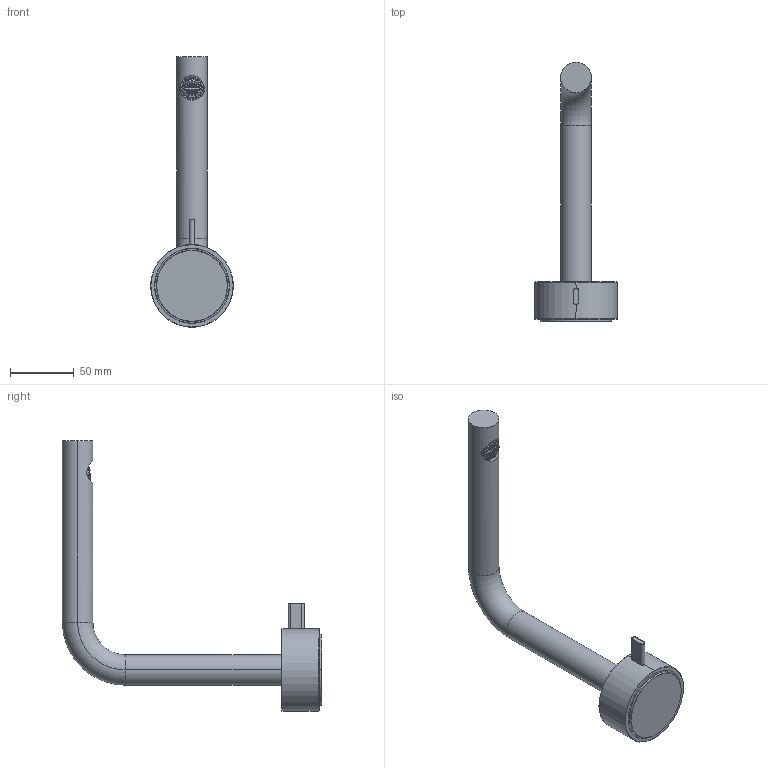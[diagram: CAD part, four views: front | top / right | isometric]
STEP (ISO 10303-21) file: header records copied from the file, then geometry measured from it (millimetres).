
FILE_DESCRIPTION((''),'2;1');
FILE_NAME('ASM0001_ASM','2023-01-12T09:53:00',('matteo.follador'),(''),'CREO PARAMETRIC BY PTC INC, 2020281','CREO PARAMETRIC BY PTC INC, 2020281','');
FILE_SCHEMA(('AUTOMOTIVE_DESIGN { 1 0 10303 214 1 1 1 1 }'));
Length unit declared in the file: millimetre
Products named in the file (3): 27000A004WF00000_SW0001; AE00000500000000; ASM0001_ASM
Assembly tree (2 placements, depth 2):
  ASM0001_ASM
    27000A004WF00000_SW0001
    AE00000500000000
Bounding box: 65 x 203.7 x 212.5 mm (x, y, z)
Volume: 148463.9 mm3; surface area: 67714.6 mm2
Topology: 3 solids, 4 shells, 458 faces, 1156 edges, 745 vertices
Faces by surface type: plane 312, cylinder 85, cone 37, torus 18, sphere 4, bspline 2
Entity records: 17875 total; most frequent: CARTESIAN_POINT 4375, DIRECTION 2500, ORIENTED_EDGE 2300, EDGE_CURVE 1152, AXIS2_PLACEMENT_3D 901, VERTEX_POINT 745, VECTOR 689, LINE 689
